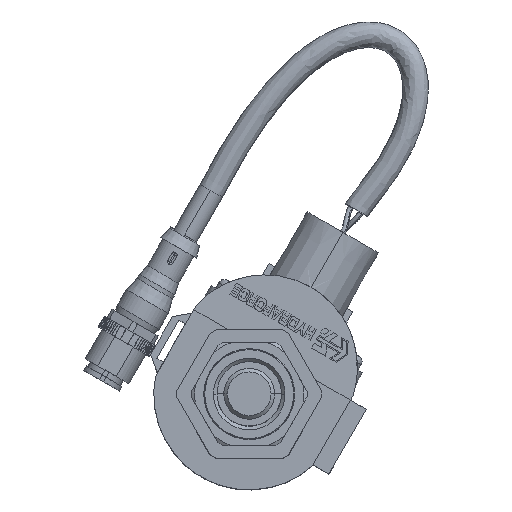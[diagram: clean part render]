
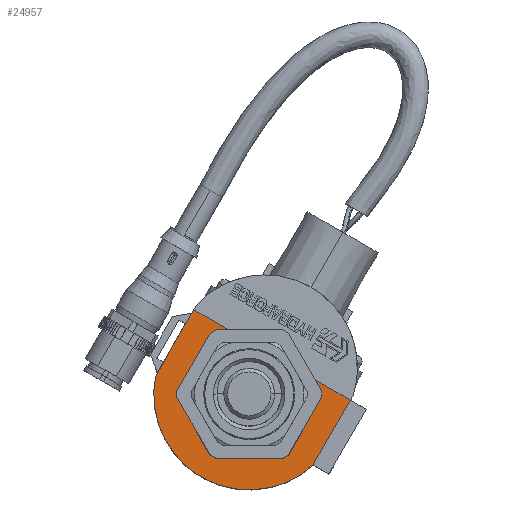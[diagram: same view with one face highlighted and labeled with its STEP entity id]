
A CAD part, top view. The second image highlights one B-rep face of the part: STEP entity #24957.
In plain terms, the highlighted planar face has unit normal (0, 0, 1).
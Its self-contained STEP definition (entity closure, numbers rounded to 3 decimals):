
#7174=DIRECTION('',(-1.,0.,0.));
#7175=VECTOR('',#7174,11.062);
#7176=CARTESIAN_POINT('',(-11.214,11.252,24.384));
#7177=LINE('',#7176,#7175);
#9469=CARTESIAN_POINT('',(0.,0.,24.384));
#9470=DIRECTION('',(0.,0.,1.));
#9471=DIRECTION('',(-0.803,0.596,0.));
#9472=AXIS2_PLACEMENT_3D('',#9469,#9470,#9471);
#9474=CARTESIAN_POINT('',(0.,0.,24.384));
#9475=DIRECTION('',(0.,0.,1.));
#9476=DIRECTION('',(-1.,0.,0.));
#9477=AXIS2_PLACEMENT_3D('',#9474,#9475,#9476);
#9479=CARTESIAN_POINT('',(0.,0.,24.384));
#9480=DIRECTION('',(0.,0.,1.));
#9481=DIRECTION('',(1.,0.,0.));
#9482=AXIS2_PLACEMENT_3D('',#9479,#9480,#9481);
#9484=DIRECTION('',(0.,1.,0.));
#9485=VECTOR('',#9484,2.921);
#9486=CARTESIAN_POINT('',(11.214,8.331,24.384));
#9487=LINE('',#9486,#9485);
#9488=DIRECTION('',(1.,0.,0.));
#9489=VECTOR('',#9488,11.062);
#9490=CARTESIAN_POINT('',(11.214,11.252,24.384));
#9491=LINE('',#9490,#9489);
#9492=DIRECTION('',(0.,-1.,0.));
#9493=VECTOR('',#9492,18.923);
#9494=CARTESIAN_POINT('',(22.276,11.252,24.384));
#9495=LINE('',#9494,#9493);
#9496=CARTESIAN_POINT('',(0.,0.,24.384));
#9497=DIRECTION('',(0.,0.,-1.));
#9498=DIRECTION('',(0.946,-0.326,0.));
#9499=AXIS2_PLACEMENT_3D('',#9496,#9497,#9498);
#9501=DIRECTION('',(0.,1.,0.));
#9502=VECTOR('',#9501,18.923);
#9503=CARTESIAN_POINT('',(-22.276,-7.671,24.384));
#9504=LINE('',#9503,#9502);
#9505=DIRECTION('',(0.,-1.,0.));
#9506=VECTOR('',#9505,2.921);
#9507=CARTESIAN_POINT('',(-11.214,11.252,24.384));
#9508=LINE('',#9507,#9506);
#20897=CARTESIAN_POINT('',(11.214,11.252,24.384));
#20898=CARTESIAN_POINT('',(-11.214,11.252,24.384));
#20899=VERTEX_POINT('',#20897);
#20900=VERTEX_POINT('',#20898);
#20901=CARTESIAN_POINT('',(-22.276,11.252,24.384));
#20902=VERTEX_POINT('',#20901);
#20910=CARTESIAN_POINT('',(22.276,11.252,24.384));
#20911=VERTEX_POINT('',#20910);
#21181=CARTESIAN_POINT('',(-11.214,8.331,24.384));
#21183=VERTEX_POINT('',#21181);
#21190=CARTESIAN_POINT('',(11.214,8.331,24.384));
#21191=VERTEX_POINT('',#21190);
#21379=CARTESIAN_POINT('',(-13.97,0.,24.384));
#21381=VERTEX_POINT('',#21379);
#21420=CARTESIAN_POINT('',(13.97,0.,24.384));
#21421=VERTEX_POINT('',#21420);
#21532=CARTESIAN_POINT('',(22.276,-7.671,24.384));
#21533=VERTEX_POINT('',#21532);
#21534=CARTESIAN_POINT('',(-22.276,-7.671,24.384));
#21535=VERTEX_POINT('',#21534);
#24936=CARTESIAN_POINT('',(0.,11.252,24.384));
#24937=DIRECTION('',(0.,0.,-1.));
#24938=DIRECTION('',(0.,1.,0.));
#24939=AXIS2_PLACEMENT_3D('',#24936,#24937,#24938);
#24940=PLANE('',#24939);
#24941=ORIENTED_EDGE('',*,*,#24821,.T.);
#24942=ORIENTED_EDGE('',*,*,#24644,.T.);
#24943=ORIENTED_EDGE('',*,*,#24765,.T.);
#24945=ORIENTED_EDGE('',*,*,#24944,.T.);
#24946=ORIENTED_EDGE('',*,*,#23734,.T.);
#24948=ORIENTED_EDGE('',*,*,#24947,.T.);
#24950=ORIENTED_EDGE('',*,*,#24949,.T.);
#24952=ORIENTED_EDGE('',*,*,#24951,.T.);
#24953=ORIENTED_EDGE('',*,*,#23722,.F.);
#24954=ORIENTED_EDGE('',*,*,#24096,.T.);
#24955=EDGE_LOOP('',(#24941,#24942,#24943,#24945,#24946,#24948,#24950,#24952,
#24953,#24954));
#24956=FACE_OUTER_BOUND('',#24955,.F.);
#24957=ADVANCED_FACE('',(#24956),#24940,.F.);
#9473=CIRCLE('',#9472,13.97);
#9478=CIRCLE('',#9477,13.97);
#9483=CIRCLE('',#9482,13.97);
#9500=CIRCLE('',#9499,23.56);
#23722=EDGE_CURVE('',#20900,#20902,#7177,.T.);
#23734=EDGE_CURVE('',#20899,#20911,#9491,.T.);
#24096=EDGE_CURVE('',#20900,#21183,#9508,.T.);
#24644=EDGE_CURVE('',#21381,#21421,#9478,.T.);
#24765=EDGE_CURVE('',#21421,#21191,#9483,.T.);
#24821=EDGE_CURVE('',#21183,#21381,#9473,.T.);
#24944=EDGE_CURVE('',#21191,#20899,#9487,.T.);
#24947=EDGE_CURVE('',#20911,#21533,#9495,.T.);
#24949=EDGE_CURVE('',#21533,#21535,#9500,.T.);
#24951=EDGE_CURVE('',#21535,#20902,#9504,.T.);
